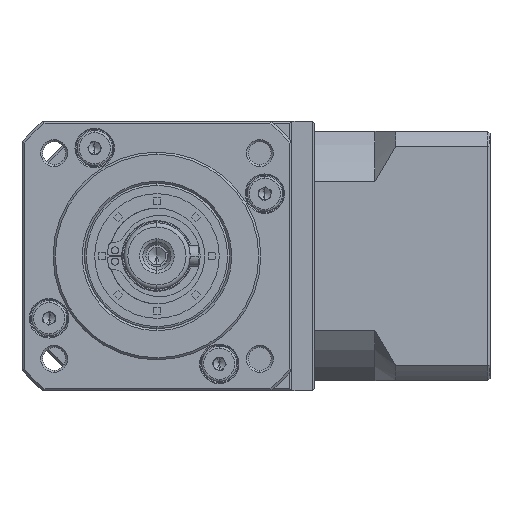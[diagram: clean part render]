
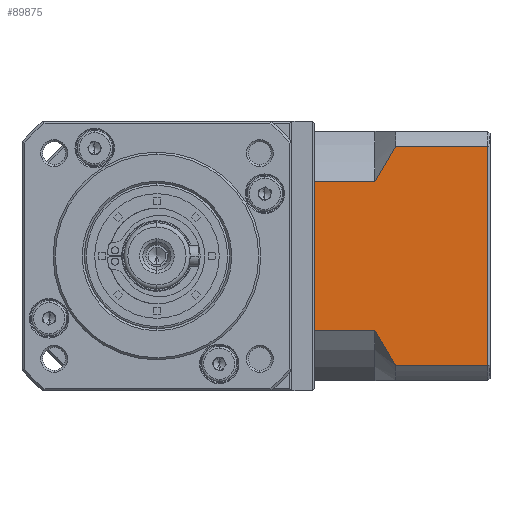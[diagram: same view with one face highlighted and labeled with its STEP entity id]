
A CAD part, left-side view. The second image highlights one B-rep face of the part: STEP entity #89875.
In plain terms, the highlighted planar face has unit normal (-1, 0, 0).
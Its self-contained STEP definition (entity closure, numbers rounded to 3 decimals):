
#457 = VECTOR ( 'NONE', #46608, 1000. ) ;
#1187 = CARTESIAN_POINT ( 'NONE',  ( -9.184, -36.28, -109.606 ) ) ;
#3071 = EDGE_CURVE ( 'NONE', #102812, #126588, #50690, .T. ) ;
#3809 = B_SPLINE_CURVE_WITH_KNOTS ( 'NONE', 3,
 ( #8398, #21486, #112150, #34974, #124899, #47950 ),
 .UNSPECIFIED., .F., .F.,
 ( 4, 2, 4 ),
 ( 0.052, 0.057, 0.062 ),
 .UNSPECIFIED. ) ;
#4575 = LINE ( 'NONE', #136384, #457 ) ;
#7943 = CARTESIAN_POINT ( 'NONE',  ( -9.184, -50.78, -145.661 ) ) ;
#8398 = CARTESIAN_POINT ( 'NONE',  ( -9.184, -55.78, -101.176 ) ) ;
#14154 = CARTESIAN_POINT ( 'NONE',  ( -9.184, -77.98, -157.634 ) ) ;
#20925 = CARTESIAN_POINT ( 'NONE',  ( -9.184, -50.78, -109.606 ) ) ;
#21486 = CARTESIAN_POINT ( 'NONE',  ( -9.184, -54.88, -102.536 ) ) ;
#22095 = VERTEX_POINT ( 'NONE', #75908 ) ;
#28075 = VERTEX_POINT ( 'NONE', #1187 ) ;
#28313 = LINE ( 'NONE', #145391, #160765 ) ;
#29539 = ORIENTED_EDGE ( 'NONE', *, *, #166708, .F. ) ;
#31455 = DIRECTION ( 'NONE',  ( 0., 1., 0. ) ) ;
#33836 = DIRECTION ( 'NONE',  ( 0., -1., 0. ) ) ;
#34407 = LINE ( 'NONE', #127490, #64736 ) ;
#34974 = CARTESIAN_POINT ( 'NONE',  ( -9.184, -52.331, -106.722 ) ) ;
#40330 = VERTEX_POINT ( 'NONE', #48098 ) ;
#43379 = DIRECTION ( 'NONE',  ( 1., 0., 0. ) ) ;
#46608 = DIRECTION ( 'NONE',  ( 0., -1., 0. ) ) ;
#47950 = CARTESIAN_POINT ( 'NONE',  ( -9.184, -50.78, -109.606 ) ) ;
#48098 = CARTESIAN_POINT ( 'NONE',  ( -9.184, -36.28, -145.661 ) ) ;
#48586 = EDGE_CURVE ( 'NONE', #78604, #22095, #4575, .T. ) ;
#50363 = VERTEX_POINT ( 'NONE', #74814 ) ;
#50690 = B_SPLINE_CURVE_WITH_KNOTS ( 'NONE', 3,
 ( #75289, #75850, #75825, #75093, #75264, #75070 ),
 .UNSPECIFIED., .F., .F.,
 ( 4, 2, 4 ),
 ( 0.1, 0.104, 0.109 ),
 .UNSPECIFIED. ) ;
#51782 = CARTESIAN_POINT ( 'NONE',  ( -9.184, -55.78, -154.091 ) ) ;
#52381 = FACE_OUTER_BOUND ( 'NONE', #150469, .T. ) ;
#53551 = DIRECTION ( 'NONE',  ( 0., 0., -1. ) ) ;
#55052 = EDGE_CURVE ( 'NONE', #102812, #40330, #34407, .T. ) ;
#55665 = CARTESIAN_POINT ( 'NONE',  ( -9.184, -77.98, -154.091 ) ) ;
#62508 = VECTOR ( 'NONE', #31455, 1000. ) ;
#64736 = VECTOR ( 'NONE', #76589, 1000. ) ;
#66596 = LINE ( 'NONE', #159294, #62508 ) ;
#67808 = ORIENTED_EDGE ( 'NONE', *, *, #143176, .F. ) ;
#74586 = EDGE_CURVE ( 'NONE', #94490, #22095, #114515, .T. ) ;
#74814 = CARTESIAN_POINT ( 'NONE',  ( -9.184, -50.78, -109.606 ) ) ;
#75070 = CARTESIAN_POINT ( 'NONE',  ( -9.184, -55.78, -154.091 ) ) ;
#75093 = CARTESIAN_POINT ( 'NONE',  ( -9.184, -54.004, -151.349 ) ) ;
#75264 = CARTESIAN_POINT ( 'NONE',  ( -9.184, -54.878, -152.728 ) ) ;
#75289 = CARTESIAN_POINT ( 'NONE',  ( -9.184, -50.78, -145.661 ) ) ;
#75825 = CARTESIAN_POINT ( 'NONE',  ( -9.184, -52.33, -148.543 ) ) ;
#75850 = CARTESIAN_POINT ( 'NONE',  ( -9.184, -51.53, -147.118 ) ) ;
#75908 = CARTESIAN_POINT ( 'NONE',  ( -9.184, -77.98, -101.176 ) ) ;
#76589 = DIRECTION ( 'NONE',  ( 0., 1., 0. ) ) ;
#77595 = AXIS2_PLACEMENT_3D ( 'NONE', #120463, #43379, #133205 ) ;
#78604 = VERTEX_POINT ( 'NONE', #133865 ) ;
#84160 = ORIENTED_EDGE ( 'NONE', *, *, #89717, .T. ) ;
#84307 = ORIENTED_EDGE ( 'NONE', *, *, #3071, .T. ) ;
#89717 = EDGE_CURVE ( 'NONE', #28075, #40330, #28313, .T. ) ;
#89875 = ADVANCED_FACE ( 'NONE', ( #52381 ), #132657, .F. ) ;
#94490 = VERTEX_POINT ( 'NONE', #55665 ) ;
#94517 = LINE ( 'NONE', #20925, #124406 ) ;
#95137 = EDGE_CURVE ( 'NONE', #78604, #50363, #3809, .T. ) ;
#102812 = VERTEX_POINT ( 'NONE', #7943 ) ;
#106042 = ORIENTED_EDGE ( 'NONE', *, *, #74586, .T. ) ;
#110504 = VECTOR ( 'NONE', #129953, 1000. ) ;
#112150 = CARTESIAN_POINT ( 'NONE',  ( -9.184, -54.007, -103.915 ) ) ;
#114515 = LINE ( 'NONE', #14154, #110504 ) ;
#120463 = CARTESIAN_POINT ( 'NONE',  ( -9.184, -78.48, -157.634 ) ) ;
#122052 = ORIENTED_EDGE ( 'NONE', *, *, #48586, .F. ) ;
#124406 = VECTOR ( 'NONE', #33836, 1000. ) ;
#124899 = CARTESIAN_POINT ( 'NONE',  ( -9.184, -51.528, -108.154 ) ) ;
#126588 = VERTEX_POINT ( 'NONE', #51782 ) ;
#127490 = CARTESIAN_POINT ( 'NONE',  ( -9.184, -50.78, -145.661 ) ) ;
#129953 = DIRECTION ( 'NONE',  ( 0., 0., 1. ) ) ;
#132657 = PLANE ( 'NONE',  #77595 ) ;
#133205 = DIRECTION ( 'NONE',  ( 0., 1., 0. ) ) ;
#133865 = CARTESIAN_POINT ( 'NONE',  ( -9.184, -55.78, -101.176 ) ) ;
#134128 = ORIENTED_EDGE ( 'NONE', *, *, #55052, .F. ) ;
#136384 = CARTESIAN_POINT ( 'NONE',  ( -9.184, -50.78, -101.176 ) ) ;
#143176 = EDGE_CURVE ( 'NONE', #94490, #126588, #66596, .T. ) ;
#145391 = CARTESIAN_POINT ( 'NONE',  ( -9.184, -36.28, -157.634 ) ) ;
#145970 = ORIENTED_EDGE ( 'NONE', *, *, #95137, .T. ) ;
#150469 = EDGE_LOOP ( 'NONE', ( #67808, #106042, #122052, #145970, #29539, #84160, #134128, #84307 ) ) ;
#159294 = CARTESIAN_POINT ( 'NONE',  ( -9.184, -50.78, -154.091 ) ) ;
#160765 = VECTOR ( 'NONE', #53551, 1000. ) ;
#166708 = EDGE_CURVE ( 'NONE', #28075, #50363, #94517, .T. ) ;
